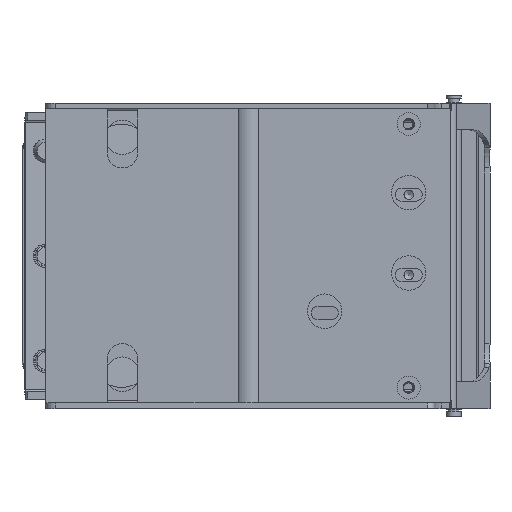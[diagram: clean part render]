
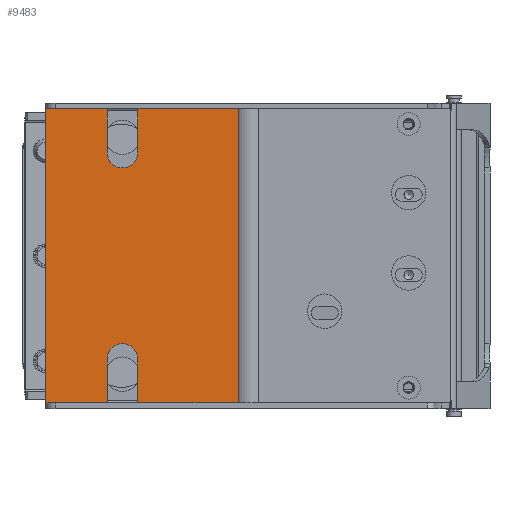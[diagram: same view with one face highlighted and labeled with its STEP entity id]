
A CAD part, front view. The second image highlights one B-rep face of the part: STEP entity #9483.
In plain terms, the highlighted planar face has unit normal (0, -1, 0).
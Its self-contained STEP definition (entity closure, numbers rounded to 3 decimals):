
#391=PLANE('',#10409);
#1044=LINE('',#15656,#1759);
#1048=LINE('',#15665,#1763);
#1065=LINE('',#15704,#1780);
#1071=LINE('',#15716,#1786);
#1073=LINE('',#15721,#1788);
#1074=LINE('',#15724,#1789);
#1075=LINE('',#15727,#1790);
#1076=LINE('',#15728,#1791);
#1077=LINE('',#15730,#1792);
#1078=LINE('',#15733,#1793);
#1759=VECTOR('',#12784,1000.);
#1763=VECTOR('',#12790,1000.);
#1780=VECTOR('',#12819,1000.);
#1786=VECTOR('',#12829,1000.);
#1788=VECTOR('',#12835,1000.);
#1789=VECTOR('',#12838,1000.);
#1790=VECTOR('',#12841,1000.);
#1791=VECTOR('',#12842,1000.);
#1792=VECTOR('',#12843,1000.);
#1793=VECTOR('',#12846,1000.);
#2461=FACE_OUTER_BOUND('',#3044,.T.);
#3044=EDGE_LOOP('',(#7982,#7983,#7984,#7985,#7986,#7987,#7988,#7989,#7990,
#7991,#7992,#7993));
#3612=CIRCLE('',#10410,4.);
#3613=CIRCLE('',#10411,4.);
#4416=VERTEX_POINT('',#15652);
#4418=VERTEX_POINT('',#15655);
#4420=VERTEX_POINT('',#15661);
#4422=VERTEX_POINT('',#15664);
#4438=VERTEX_POINT('',#15703);
#4439=VERTEX_POINT('',#15707);
#4442=VERTEX_POINT('',#15714);
#4443=VERTEX_POINT('',#15719);
#4444=VERTEX_POINT('',#15723);
#4445=VERTEX_POINT('',#15725);
#4446=VERTEX_POINT('',#15729);
#4447=VERTEX_POINT('',#15731);
#5646=EDGE_CURVE('',#4416,#4418,#1044,.T.);
#5650=EDGE_CURVE('',#4420,#4422,#1048,.T.);
#5670=EDGE_CURVE('',#4418,#4438,#1065,.T.);
#5677=EDGE_CURVE('',#4442,#4439,#1071,.T.);
#5679=EDGE_CURVE('',#4438,#4443,#1073,.T.);
#5680=EDGE_CURVE('',#4444,#4416,#1074,.T.);
#5681=EDGE_CURVE('',#4444,#4445,#3612,.T.);
#5682=EDGE_CURVE('',#4445,#4439,#1075,.T.);
#5683=EDGE_CURVE('',#4422,#4442,#1076,.T.);
#5684=EDGE_CURVE('',#4446,#4420,#1077,.T.);
#5685=EDGE_CURVE('',#4446,#4447,#3613,.T.);
#5686=EDGE_CURVE('',#4447,#4443,#1078,.T.);
#7982=ORIENTED_EDGE('',*,*,#5680,.F.);
#7983=ORIENTED_EDGE('',*,*,#5681,.T.);
#7984=ORIENTED_EDGE('',*,*,#5682,.T.);
#7985=ORIENTED_EDGE('',*,*,#5677,.F.);
#7986=ORIENTED_EDGE('',*,*,#5683,.F.);
#7987=ORIENTED_EDGE('',*,*,#5650,.F.);
#7988=ORIENTED_EDGE('',*,*,#5684,.F.);
#7989=ORIENTED_EDGE('',*,*,#5685,.T.);
#7990=ORIENTED_EDGE('',*,*,#5686,.T.);
#7991=ORIENTED_EDGE('',*,*,#5679,.F.);
#7992=ORIENTED_EDGE('',*,*,#5670,.F.);
#7993=ORIENTED_EDGE('',*,*,#5646,.F.);
#9483=ADVANCED_FACE('',(#2461),#391,.T.);
#10409=AXIS2_PLACEMENT_3D('',#15722,#12836,#12837);
#10410=AXIS2_PLACEMENT_3D('',#15726,#12839,#12840);
#10411=AXIS2_PLACEMENT_3D('',#15732,#12844,#12845);
#12784=DIRECTION('',(-1.,0.,0.));
#12790=DIRECTION('',(1.,0.,0.));
#12819=DIRECTION('',(0.,0.,1.));
#12829=DIRECTION('',(-1.,0.,0.));
#12835=DIRECTION('',(1.,0.,0.));
#12836=DIRECTION('center_axis',(0.,-1.,0.));
#12837=DIRECTION('ref_axis',(-1.,0.,0.));
#12838=DIRECTION('',(0.,0.,-1.));
#12839=DIRECTION('center_axis',(0.,1.,0.));
#12840=DIRECTION('ref_axis',(1.,0.,0.));
#12841=DIRECTION('',(0.,0.,-1.));
#12842=DIRECTION('',(0.,0.,-1.));
#12843=DIRECTION('',(0.,0.,1.));
#12844=DIRECTION('center_axis',(0.,1.,0.));
#12845=DIRECTION('ref_axis',(1.,0.,0.));
#12846=DIRECTION('',(0.,0.,1.));
#15652=CARTESIAN_POINT('',(-57.858,-24.345,-38.5));
#15655=CARTESIAN_POINT('',(-73.858,-24.345,-38.5));
#15656=CARTESIAN_POINT('',(-73.858,-24.345,-38.5));
#15661=CARTESIAN_POINT('',(-49.858,-24.345,38.5));
#15664=CARTESIAN_POINT('',(-23.504,-24.345,38.5));
#15665=CARTESIAN_POINT('',(32.142,-24.345,38.5));
#15703=CARTESIAN_POINT('',(-73.858,-24.345,38.5));
#15704=CARTESIAN_POINT('',(-73.858,-24.345,38.5));
#15707=CARTESIAN_POINT('',(-49.858,-24.345,-38.5));
#15714=CARTESIAN_POINT('',(-23.504,-24.345,-38.5));
#15716=CARTESIAN_POINT('',(-73.858,-24.345,-38.5));
#15719=CARTESIAN_POINT('',(-57.858,-24.345,38.5));
#15721=CARTESIAN_POINT('',(32.142,-24.345,38.5));
#15722=CARTESIAN_POINT('Origin',(-20.858,-24.345,0.));
#15723=CARTESIAN_POINT('',(-57.858,-24.345,-27.));
#15724=CARTESIAN_POINT('',(-57.858,-24.345,0.));
#15725=CARTESIAN_POINT('',(-49.858,-24.345,-27.));
#15726=CARTESIAN_POINT('Origin',(-53.858,-24.345,-27.));
#15727=CARTESIAN_POINT('',(-49.858,-24.345,-40.508));
#15728=CARTESIAN_POINT('',(-23.504,-24.345,0.));
#15729=CARTESIAN_POINT('',(-49.858,-24.345,27.));
#15730=CARTESIAN_POINT('',(-49.858,-24.345,0.));
#15731=CARTESIAN_POINT('',(-57.858,-24.345,27.));
#15732=CARTESIAN_POINT('Origin',(-53.858,-24.345,27.));
#15733=CARTESIAN_POINT('',(-57.858,-24.345,38.954));
